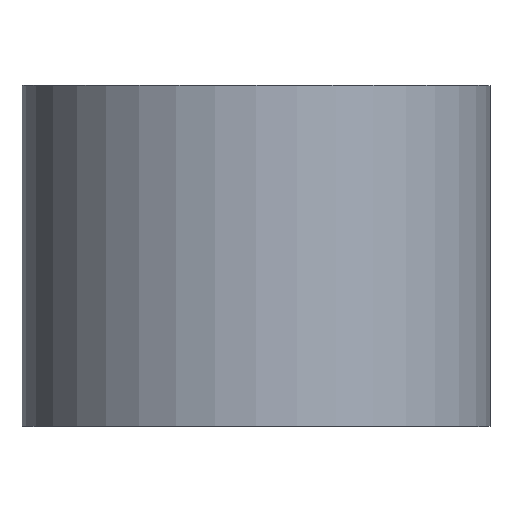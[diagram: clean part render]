
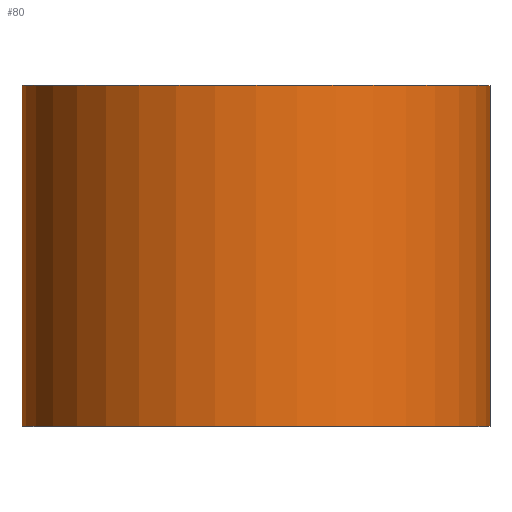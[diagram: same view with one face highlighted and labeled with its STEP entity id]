
A CAD part, top view. The second image highlights one B-rep face of the part: STEP entity #80.
In plain terms, the highlighted cylindrical face has radius 35 mm (diameter 70 mm), a full revolution.
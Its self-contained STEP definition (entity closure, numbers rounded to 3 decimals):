
#80=ADVANCED_FACE('',(#116,#118),#120,.T.);
#116=FACE_OUTER_BOUND('',#117,.T.);
#117=EDGE_LOOP('',(#131));
#118=FACE_OUTER_BOUND('',#119,.T.);
#119=EDGE_LOOP('',(#132));
#120=CYLINDRICAL_SURFACE('',#121,35.);
#121=AXIS2_PLACEMENT_3D('',#122,#123,#124);
#122=CARTESIAN_POINT('',(0.,0.,0.));
#123=DIRECTION('',(0.,1.,0.));
#124=DIRECTION('',(-1.,0.,0.));
#131=ORIENTED_EDGE('',*,*,#135,.F.);
#132=ORIENTED_EDGE('',*,*,#133,.T.);
#133=EDGE_CURVE('',#137,#137,#138,.T.);
#135=EDGE_CURVE('',#141,#141,#142,.T.);
#137=VERTEX_POINT('',#145);
#138=CIRCLE('',#146,35.);
#141=VERTEX_POINT('',#155);
#142=CIRCLE('',#156,35.);
#145=CARTESIAN_POINT('',(-35.,0.,0.));
#146=AXIS2_PLACEMENT_3D('',#147,#148,#149);
#147=CARTESIAN_POINT('',(0.,0.,0.));
#148=DIRECTION('',(0.,1.,0.));
#149=DIRECTION('',(-1.,0.,0.));
#155=CARTESIAN_POINT('',(-35.,51.,0.));
#156=AXIS2_PLACEMENT_3D('',#157,#158,#159);
#157=CARTESIAN_POINT('',(0.,51.,0.));
#158=DIRECTION('',(0.,1.,0.));
#159=DIRECTION('',(-1.,0.,0.));
